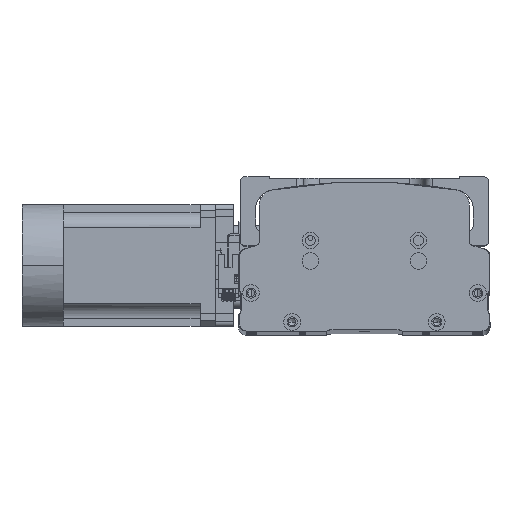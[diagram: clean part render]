
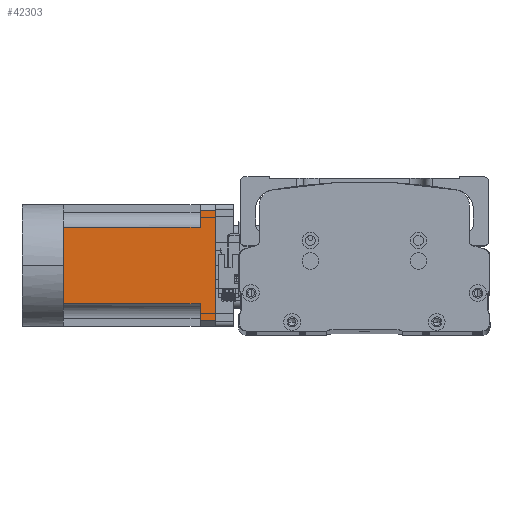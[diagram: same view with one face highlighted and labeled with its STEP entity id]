
A CAD part, top view. The second image highlights one B-rep face of the part: STEP entity #42303.
In plain terms, the highlighted planar face has unit normal (0, -0.003, 1) as drawn and (0, 0, -1) by its records, which use the part's own axes.
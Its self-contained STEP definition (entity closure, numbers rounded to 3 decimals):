
#2002 = AXIS2_PLACEMENT_3D ( 'NONE', #12306, #16362, #44442 ) ;
#3182 = VERTEX_POINT ( 'NONE', #16316 ) ;
#5162 = LINE ( 'NONE', #10560, #15932 ) ;
#5234 = FACE_OUTER_BOUND ( 'NONE', #37603, .T. ) ;
#5828 = VERTEX_POINT ( 'NONE', #36367 ) ;
#6289 = CARTESIAN_POINT ( 'NONE',  ( 36., 90., -40. ) ) ;
#7232 = LINE ( 'NONE', #23916, #34339 ) ;
#8126 = ORIENTED_EDGE ( 'NONE', *, *, #45453, .T. ) ;
#8192 = ORIENTED_EDGE ( 'NONE', *, *, #34159, .T. ) ;
#8228 = PLANE ( 'NONE',  #2002 ) ;
#8318 = VECTOR ( 'NONE', #34124, 1000. ) ;
#10560 = CARTESIAN_POINT ( 'NONE',  ( -40., 0., -40. ) ) ;
#11404 = LINE ( 'NONE', #29023, #20820 ) ;
#12306 = CARTESIAN_POINT ( 'NONE',  ( -40., -27., -40. ) ) ;
#12839 = CARTESIAN_POINT ( 'NONE',  ( -40., 90., -40. ) ) ;
#14904 = ORIENTED_EDGE ( 'NONE', *, *, #32964, .F. ) ;
#15932 = VECTOR ( 'NONE', #34665, 1000. ) ;
#16316 = CARTESIAN_POINT ( 'NONE',  ( 0., 0., -40. ) ) ;
#16336 = LINE ( 'NONE', #12839, #24456 ) ;
#16362 = DIRECTION ( 'NONE',  ( 0., 0., -1. ) ) ;
#17747 = CARTESIAN_POINT ( 'NONE',  ( 36., 100., -40. ) ) ;
#18609 = ORIENTED_EDGE ( 'NONE', *, *, #26223, .T. ) ;
#18747 = VERTEX_POINT ( 'NONE', #45385 ) ;
#18977 = VECTOR ( 'NONE', #21981, 1000. ) ;
#20298 = LINE ( 'NONE', #30083, #8318 ) ;
#20820 = VECTOR ( 'NONE', #41119, 1000. ) ;
#21981 = DIRECTION ( 'NONE',  ( 0., -1., 0. ) ) ;
#22025 = ORIENTED_EDGE ( 'NONE', *, *, #32962, .T. ) ;
#23358 = DIRECTION ( 'NONE',  ( -1., 0., 0. ) ) ;
#23916 = CARTESIAN_POINT ( 'NONE',  ( -40., 0., -40. ) ) ;
#24456 = VECTOR ( 'NONE', #36933, 1000. ) ;
#25134 = VERTEX_POINT ( 'NONE', #42931 ) ;
#25578 = EDGE_CURVE ( 'NONE', #25973, #33005, #43562, .T. ) ;
#25973 = VERTEX_POINT ( 'NONE', #17747 ) ;
#26223 = EDGE_CURVE ( 'NONE', #29194, #49993, #11404, .T. ) ;
#29023 = CARTESIAN_POINT ( 'NONE',  ( -25., -27., -40. ) ) ;
#29194 = VERTEX_POINT ( 'NONE', #49432 ) ;
#29746 = ORIENTED_EDGE ( 'NONE', *, *, #38182, .T. ) ;
#29772 = LINE ( 'NONE', #46218, #39174 ) ;
#30083 = CARTESIAN_POINT ( 'NONE',  ( -36., -27., -40. ) ) ;
#30731 = CARTESIAN_POINT ( 'NONE',  ( 25., 90., -40. ) ) ;
#30868 = EDGE_CURVE ( 'NONE', #3182, #29194, #7232, .T. ) ;
#32218 = DIRECTION ( 'NONE',  ( -1., 0., 0. ) ) ;
#32923 = VECTOR ( 'NONE', #34452, 1000. ) ;
#32962 = EDGE_CURVE ( 'NONE', #5828, #25134, #20298, .T. ) ;
#32964 = EDGE_CURVE ( 'NONE', #25973, #25134, #29772, .T. ) ;
#33005 = VERTEX_POINT ( 'NONE', #6289 ) ;
#34116 = CARTESIAN_POINT ( 'NONE',  ( 36., -27., -40. ) ) ;
#34124 = DIRECTION ( 'NONE',  ( 0., 1., 0. ) ) ;
#34159 = EDGE_CURVE ( 'NONE', #49993, #5828, #16336, .T. ) ;
#34339 = VECTOR ( 'NONE', #32218, 1000. ) ;
#34452 = DIRECTION ( 'NONE',  ( 0., -1., 0. ) ) ;
#34665 = DIRECTION ( 'NONE',  ( -1., 0., 0. ) ) ;
#36367 = CARTESIAN_POINT ( 'NONE',  ( -36., 90., -40. ) ) ;
#36933 = DIRECTION ( 'NONE',  ( -1., 0., 0. ) ) ;
#37215 = ORIENTED_EDGE ( 'NONE', *, *, #30868, .T. ) ;
#37223 = LINE ( 'NONE', #50965, #46627 ) ;
#37453 = CARTESIAN_POINT ( 'NONE',  ( -25., 90., -40. ) ) ;
#37603 = EDGE_LOOP ( 'NONE', ( #14904, #50666, #43414, #8126, #29746, #37215, #18609, #8192, #22025 ) ) ;
#38182 = EDGE_CURVE ( 'NONE', #18747, #3182, #5162, .T. ) ;
#39174 = VECTOR ( 'NONE', #50271, 1000. ) ;
#40943 = VERTEX_POINT ( 'NONE', #30731 ) ;
#41119 = DIRECTION ( 'NONE',  ( 0., 1., 0. ) ) ;
#42303 = ADVANCED_FACE ( 'NONE', ( #5234 ), #8228, .T. ) ;
#42931 = CARTESIAN_POINT ( 'NONE',  ( -36., 100., -40. ) ) ;
#43414 = ORIENTED_EDGE ( 'NONE', *, *, #43972, .T. ) ;
#43562 = LINE ( 'NONE', #34116, #32923 ) ;
#43972 = EDGE_CURVE ( 'NONE', #33005, #40943, #37223, .T. ) ;
#44442 = DIRECTION ( 'NONE',  ( -1., 0., 0. ) ) ;
#45385 = CARTESIAN_POINT ( 'NONE',  ( 25., 0., -40. ) ) ;
#45453 = EDGE_CURVE ( 'NONE', #40943, #18747, #49776, .T. ) ;
#46040 = CARTESIAN_POINT ( 'NONE',  ( 25., -27., -40. ) ) ;
#46218 = CARTESIAN_POINT ( 'NONE',  ( -40., 100., -40. ) ) ;
#46627 = VECTOR ( 'NONE', #23358, 1000. ) ;
#49432 = CARTESIAN_POINT ( 'NONE',  ( -25., 0., -40. ) ) ;
#49776 = LINE ( 'NONE', #46040, #18977 ) ;
#49993 = VERTEX_POINT ( 'NONE', #37453 ) ;
#50271 = DIRECTION ( 'NONE',  ( -1., 0., 0. ) ) ;
#50666 = ORIENTED_EDGE ( 'NONE', *, *, #25578, .T. ) ;
#50965 = CARTESIAN_POINT ( 'NONE',  ( -40., 90., -40. ) ) ;
